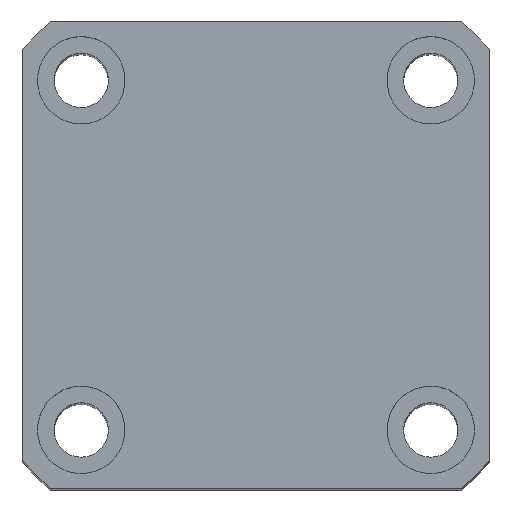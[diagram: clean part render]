
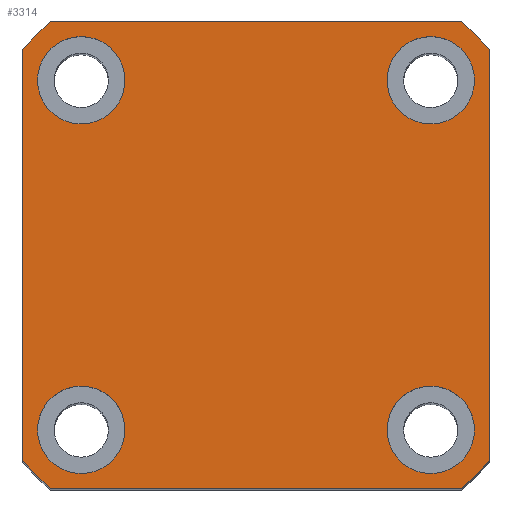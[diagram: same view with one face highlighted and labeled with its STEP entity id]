
A CAD part, top view. The second image highlights one B-rep face of the part: STEP entity #3314.
In plain terms, the highlighted planar face has unit normal (0, 0, 1) as drawn and (1, 0, 0) by its records, which use the part's own axes.
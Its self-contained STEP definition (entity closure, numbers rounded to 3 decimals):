
#53 = VECTOR ( 'NONE', #2095, 1000. ) ;
#58 = DIRECTION ( 'NONE',  ( 0., 0., -1. ) ) ;
#75 = DIRECTION ( 'NONE',  ( 0., 0., -1. ) ) ;
#195 = VERTEX_POINT ( 'NONE', #1546 ) ;
#268 = EDGE_CURVE ( 'NONE', #3298, #7041, #7662, .T. ) ;
#333 = CARTESIAN_POINT ( 'NONE',  ( 110., -18., 13.5 ) ) ;
#425 = CARTESIAN_POINT ( 'NONE',  ( 110., 18., 13.5 ) ) ;
#518 = ORIENTED_EDGE ( 'NONE', *, *, #7998, .T. ) ;
#640 = VERTEX_POINT ( 'NONE', #1535 ) ;
#689 = EDGE_LOOP ( 'NONE', ( #945, #6415, #5581, #6424, #2440, #6455, #1868, #518 ) ) ;
#776 = VECTOR ( 'NONE', #6497, 1000. ) ;
#797 = DIRECTION ( 'NONE',  ( 1., 0., 0. ) ) ;
#829 = EDGE_CURVE ( 'NONE', #4736, #7829, #5524, .T. ) ;
#862 = CARTESIAN_POINT ( 'NONE',  ( 110., -18., 18. ) ) ;
#895 = DIRECTION ( 'NONE',  ( 0., 0., -1. ) ) ;
#919 = CARTESIAN_POINT ( 'NONE',  ( 110., 18., 18. ) ) ;
#945 = ORIENTED_EDGE ( 'NONE', *, *, #2264, .T. ) ;
#1032 = DIRECTION ( 'NONE',  ( 1., 0., 0. ) ) ;
#1107 = CARTESIAN_POINT ( 'NONE',  ( 110., 24., -24. ) ) ;
#1130 = DIRECTION ( 'NONE',  ( 0., 0., -1. ) ) ;
#1138 = FACE_OUTER_BOUND ( 'NONE', #689, .T. ) ;
#1154 = DIRECTION ( 'NONE',  ( 1., 0., 0. ) ) ;
#1178 = VERTEX_POINT ( 'NONE', #3187 ) ;
#1181 = CARTESIAN_POINT ( 'NONE',  ( 110., 18., -18. ) ) ;
#1209 = EDGE_CURVE ( 'NONE', #195, #1178, #6377, .T. ) ;
#1213 = EDGE_LOOP ( 'NONE', ( #3627, #1858 ) ) ;
#1341 = FACE_BOUND ( 'NONE', #1213, .T. ) ;
#1371 = CARTESIAN_POINT ( 'NONE',  ( 110., 0., 0. ) ) ;
#1422 = VERTEX_POINT ( 'NONE', #2656 ) ;
#1456 = DIRECTION ( 'NONE',  ( 1., 0., 0. ) ) ;
#1470 = CIRCLE ( 'NONE', #4190, 4.5 ) ;
#1483 = DIRECTION ( 'NONE',  ( 0., 0., -1. ) ) ;
#1484 = DIRECTION ( 'NONE',  ( 0., 0., -1. ) ) ;
#1535 = CARTESIAN_POINT ( 'NONE',  ( 110., -24., -21.166 ) ) ;
#1546 = CARTESIAN_POINT ( 'NONE',  ( 110., 24., 21.166 ) ) ;
#1626 = CARTESIAN_POINT ( 'NONE',  ( 110., -18., -18. ) ) ;
#1674 = DIRECTION ( 'NONE',  ( 1., 0., 0. ) ) ;
#1817 = DIRECTION ( 'NONE',  ( 1., 0., 0. ) ) ;
#1858 = ORIENTED_EDGE ( 'NONE', *, *, #2435, .F. ) ;
#1868 = ORIENTED_EDGE ( 'NONE', *, *, #4814, .T. ) ;
#2045 = VERTEX_POINT ( 'NONE', #6846 ) ;
#2056 = DIRECTION ( 'NONE',  ( 0., 0., -1. ) ) ;
#2095 = DIRECTION ( 'NONE',  ( 0., -1., 0. ) ) ;
#2169 = EDGE_LOOP ( 'NONE', ( #6697, #2591 ) ) ;
#2203 = ORIENTED_EDGE ( 'NONE', *, *, #3750, .F. ) ;
#2264 = EDGE_CURVE ( 'NONE', #4888, #2667, #4480, .T. ) ;
#2310 = CARTESIAN_POINT ( 'NONE',  ( 110., 18., -18. ) ) ;
#2407 = CIRCLE ( 'NONE', #3940, 4.5 ) ;
#2435 = EDGE_CURVE ( 'NONE', #7041, #3298, #2407, .T. ) ;
#2440 = ORIENTED_EDGE ( 'NONE', *, *, #6718, .T. ) ;
#2471 = EDGE_CURVE ( 'NONE', #2667, #3019, #3703, .T. ) ;
#2495 = AXIS2_PLACEMENT_3D ( 'NONE', #1181, #1154, #1130 ) ;
#2529 = AXIS2_PLACEMENT_3D ( 'NONE', #7394, #3726, #2056 ) ;
#2583 = VERTEX_POINT ( 'NONE', #5083 ) ;
#2591 = ORIENTED_EDGE ( 'NONE', *, *, #7964, .F. ) ;
#2604 = VERTEX_POINT ( 'NONE', #6318 ) ;
#2617 = VECTOR ( 'NONE', #7942, 1000. ) ;
#2656 = CARTESIAN_POINT ( 'NONE',  ( 110., 18., -13.5 ) ) ;
#2667 = VERTEX_POINT ( 'NONE', #5657 ) ;
#2720 = AXIS2_PLACEMENT_3D ( 'NONE', #4080, #1674, #75 ) ;
#2813 = FACE_BOUND ( 'NONE', #6659, .T. ) ;
#2848 = CIRCLE ( 'NONE', #2961, 32. ) ;
#2941 = CARTESIAN_POINT ( 'NONE',  ( 110., 24., -21.166 ) ) ;
#2960 = DIRECTION ( 'NONE',  ( 0., 0., -1. ) ) ;
#2961 = AXIS2_PLACEMENT_3D ( 'NONE', #7449, #3779, #58 ) ;
#2972 = AXIS2_PLACEMENT_3D ( 'NONE', #5096, #7180, #7499 ) ;
#3019 = VERTEX_POINT ( 'NONE', #2941 ) ;
#3026 = EDGE_CURVE ( 'NONE', #1422, #2604, #5244, .T. ) ;
#3114 = DIRECTION ( 'NONE',  ( 1., 0., 0. ) ) ;
#3187 = CARTESIAN_POINT ( 'NONE',  ( 110., 21.166, 24. ) ) ;
#3275 = CARTESIAN_POINT ( 'NONE',  ( 110., -21.166, 24. ) ) ;
#3298 = VERTEX_POINT ( 'NONE', #4936 ) ;
#3314 = ADVANCED_FACE ( 'NONE', ( #1341, #4472, #6075, #2813, #1138 ), #7918, .T. ) ;
#3351 = LINE ( 'NONE', #5808, #53 ) ;
#3502 = VERTEX_POINT ( 'NONE', #425 ) ;
#3511 = DIRECTION ( 'NONE',  ( 0., 0., -1. ) ) ;
#3627 = ORIENTED_EDGE ( 'NONE', *, *, #268, .F. ) ;
#3633 = DIRECTION ( 'NONE',  ( 0., 0., -1. ) ) ;
#3703 = CIRCLE ( 'NONE', #4328, 32. ) ;
#3726 = DIRECTION ( 'NONE',  ( 1., 0., 0. ) ) ;
#3750 = EDGE_CURVE ( 'NONE', #3502, #2045, #7236, .T. ) ;
#3770 = ORIENTED_EDGE ( 'NONE', *, *, #3026, .F. ) ;
#3779 = DIRECTION ( 'NONE',  ( 1., 0., 0. ) ) ;
#3936 = CARTESIAN_POINT ( 'NONE',  ( 110., -18., -13.5 ) ) ;
#3940 = AXIS2_PLACEMENT_3D ( 'NONE', #1626, #1817, #3511 ) ;
#4025 = ORIENTED_EDGE ( 'NONE', *, *, #7299, .F. ) ;
#4080 = CARTESIAN_POINT ( 'NONE',  ( 110., -18., -18. ) ) ;
#4190 = AXIS2_PLACEMENT_3D ( 'NONE', #862, #5210, #1483 ) ;
#4328 = AXIS2_PLACEMENT_3D ( 'NONE', #5300, #7855, #7760 ) ;
#4472 = FACE_BOUND ( 'NONE', #2169, .T. ) ;
#4480 = LINE ( 'NONE', #1107, #2617 ) ;
#4498 = LINE ( 'NONE', #7001, #7565 ) ;
#4563 = AXIS2_PLACEMENT_3D ( 'NONE', #4948, #3114, #3633 ) ;
#4703 = CARTESIAN_POINT ( 'NONE',  ( 110., -21.166, -24. ) ) ;
#4736 = VERTEX_POINT ( 'NONE', #3275 ) ;
#4744 = ORIENTED_EDGE ( 'NONE', *, *, #4977, .F. ) ;
#4757 = CARTESIAN_POINT ( 'NONE',  ( 110., 18., 18. ) ) ;
#4814 = EDGE_CURVE ( 'NONE', #7829, #640, #4498, .T. ) ;
#4833 = VERTEX_POINT ( 'NONE', #333 ) ;
#4888 = VERTEX_POINT ( 'NONE', #4703 ) ;
#4936 = CARTESIAN_POINT ( 'NONE',  ( 110., -18., -22.5 ) ) ;
#4948 = CARTESIAN_POINT ( 'NONE',  ( 110., 0., 0. ) ) ;
#4977 = EDGE_CURVE ( 'NONE', #2604, #1422, #5730, .T. ) ;
#5083 = CARTESIAN_POINT ( 'NONE',  ( 110., -18., 22.5 ) ) ;
#5096 = CARTESIAN_POINT ( 'NONE',  ( 110., 0., 0. ) ) ;
#5210 = DIRECTION ( 'NONE',  ( 1., 0., 0. ) ) ;
#5244 = CIRCLE ( 'NONE', #2495, 4.5 ) ;
#5300 = CARTESIAN_POINT ( 'NONE',  ( 110., 0., 0. ) ) ;
#5370 = DIRECTION ( 'NONE',  ( 0., 0., -1. ) ) ;
#5380 = EDGE_CURVE ( 'NONE', #4833, #2583, #1470, .T. ) ;
#5515 = LINE ( 'NONE', #5887, #776 ) ;
#5524 = CIRCLE ( 'NONE', #2972, 32. ) ;
#5552 = CIRCLE ( 'NONE', #5752, 4.5 ) ;
#5581 = ORIENTED_EDGE ( 'NONE', *, *, #6557, .T. ) ;
#5657 = CARTESIAN_POINT ( 'NONE',  ( 110., 21.166, -24. ) ) ;
#5730 = CIRCLE ( 'NONE', #6392, 4.5 ) ;
#5752 = AXIS2_PLACEMENT_3D ( 'NONE', #4757, #1032, #5370 ) ;
#5808 = CARTESIAN_POINT ( 'NONE',  ( 110., 24., 24. ) ) ;
#5887 = CARTESIAN_POINT ( 'NONE',  ( 110., 24., 24. ) ) ;
#5914 = CARTESIAN_POINT ( 'NONE',  ( 110., -24., 21.166 ) ) ;
#6026 = AXIS2_PLACEMENT_3D ( 'NONE', #919, #797, #895 ) ;
#6075 = FACE_BOUND ( 'NONE', #6499, .T. ) ;
#6318 = CARTESIAN_POINT ( 'NONE',  ( 110., 18., -22.5 ) ) ;
#6377 = CIRCLE ( 'NONE', #7915, 32. ) ;
#6392 = AXIS2_PLACEMENT_3D ( 'NONE', #2310, #6631, #2960 ) ;
#6415 = ORIENTED_EDGE ( 'NONE', *, *, #2471, .T. ) ;
#6424 = ORIENTED_EDGE ( 'NONE', *, *, #1209, .T. ) ;
#6455 = ORIENTED_EDGE ( 'NONE', *, *, #829, .T. ) ;
#6497 = DIRECTION ( 'NONE',  ( 0., 0., 1. ) ) ;
#6499 = EDGE_LOOP ( 'NONE', ( #4744, #3770 ) ) ;
#6557 = EDGE_CURVE ( 'NONE', #3019, #195, #5515, .T. ) ;
#6631 = DIRECTION ( 'NONE',  ( 1., 0., 0. ) ) ;
#6659 = EDGE_LOOP ( 'NONE', ( #2203, #4025 ) ) ;
#6697 = ORIENTED_EDGE ( 'NONE', *, *, #5380, .F. ) ;
#6718 = EDGE_CURVE ( 'NONE', #1178, #4736, #3351, .T. ) ;
#6846 = CARTESIAN_POINT ( 'NONE',  ( 110., 18., 22.5 ) ) ;
#7001 = CARTESIAN_POINT ( 'NONE',  ( 110., -24., 24. ) ) ;
#7041 = VERTEX_POINT ( 'NONE', #3936 ) ;
#7180 = DIRECTION ( 'NONE',  ( 1., 0., 0. ) ) ;
#7236 = CIRCLE ( 'NONE', #6026, 4.5 ) ;
#7299 = EDGE_CURVE ( 'NONE', #2045, #3502, #5552, .T. ) ;
#7394 = CARTESIAN_POINT ( 'NONE',  ( 110., -18., 18. ) ) ;
#7449 = CARTESIAN_POINT ( 'NONE',  ( 110., 0., 0. ) ) ;
#7499 = DIRECTION ( 'NONE',  ( 0., 0., -1. ) ) ;
#7565 = VECTOR ( 'NONE', #7622, 1000. ) ;
#7581 = CIRCLE ( 'NONE', #2529, 4.5 ) ;
#7622 = DIRECTION ( 'NONE',  ( 0., 0., -1. ) ) ;
#7662 = CIRCLE ( 'NONE', #2720, 4.5 ) ;
#7760 = DIRECTION ( 'NONE',  ( 0., 0., -1. ) ) ;
#7829 = VERTEX_POINT ( 'NONE', #5914 ) ;
#7855 = DIRECTION ( 'NONE',  ( 1., 0., 0. ) ) ;
#7915 = AXIS2_PLACEMENT_3D ( 'NONE', #1371, #1456, #1484 ) ;
#7918 = PLANE ( 'NONE',  #4563 ) ;
#7942 = DIRECTION ( 'NONE',  ( 0., 1., 0. ) ) ;
#7964 = EDGE_CURVE ( 'NONE', #2583, #4833, #7581, .T. ) ;
#7998 = EDGE_CURVE ( 'NONE', #640, #4888, #2848, .T. ) ;
